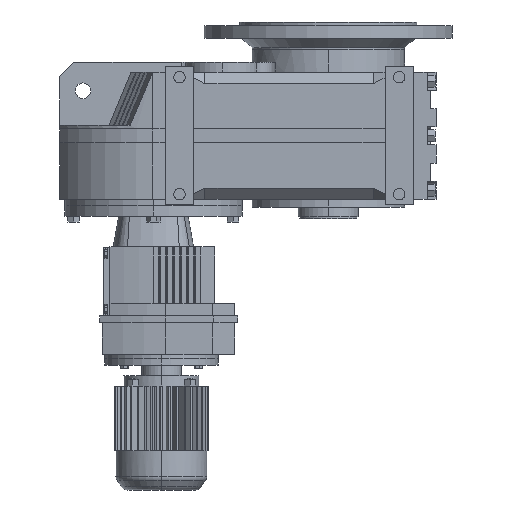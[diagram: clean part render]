
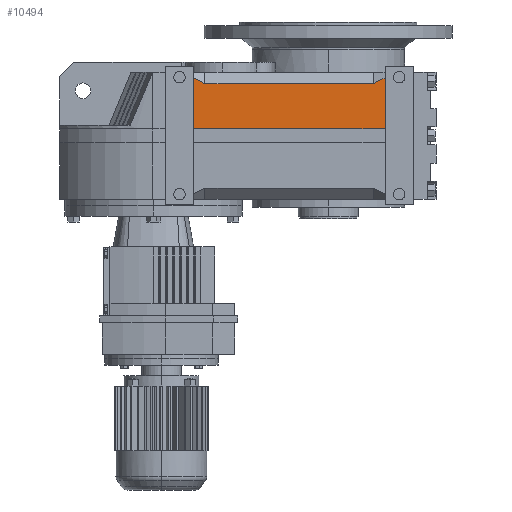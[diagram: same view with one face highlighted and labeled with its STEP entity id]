
A CAD part, left-side view. The second image highlights one B-rep face of the part: STEP entity #10494.
In plain terms, the highlighted planar face has unit normal (-1, 0, 0).
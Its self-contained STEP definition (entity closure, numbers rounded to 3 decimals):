
#844 = PLANE('',#845);
#845 = AXIS2_PLACEMENT_3D('',#846,#847,#848);
#846 = CARTESIAN_POINT('',(-131.2,-326.7,1.));
#847 = DIRECTION('',(0.,1.,0.));
#848 = DIRECTION('',(0.,0.,1.));
#956 = PLANE('',#957);
#957 = AXIS2_PLACEMENT_3D('',#958,#959,#960);
#958 = CARTESIAN_POINT('',(-131.2,-56.7,1.));
#959 = DIRECTION('',(0.,-1.,0.));
#960 = DIRECTION('',(0.,0.,-1.));
#2777 = VERTEX_POINT('',#2778);
#2778 = CARTESIAN_POINT('',(-157.2,-326.7,180.436));
#2792 = PLANE('',#2793);
#2793 = AXIS2_PLACEMENT_3D('',#2794,#2795,#2796);
#2794 = CARTESIAN_POINT('',(-233.918,-326.7,103.718));
#2795 = DIRECTION('',(-0.664,0.342,0.664));
#2796 = DIRECTION('',(0.707,0.,0.707)
  );
#2804 = EDGE_CURVE('',#2805,#2777,#2807,.T.);
#2805 = VERTEX_POINT('',#2806);
#2806 = CARTESIAN_POINT('',(-157.2,-326.7,108.25));
#2807 = SURFACE_CURVE('',#2808,(#2812,#2819),.PCURVE_S1.);
#2808 = LINE('',#2809,#2810);
#2809 = CARTESIAN_POINT('',(-157.2,-326.7,188.2));
#2810 = VECTOR('',#2811,1.);
#2811 = DIRECTION('',(0.,0.,1.));
#2812 = PCURVE('',#844,#2813);
#2813 = DEFINITIONAL_REPRESENTATION('',(#2814),#2818);
#2814 = LINE('',#2815,#2816);
#2815 = CARTESIAN_POINT('',(187.2,-26.));
#2816 = VECTOR('',#2817,1.);
#2817 = DIRECTION('',(1.,0.));
#2818 = ( GEOMETRIC_REPRESENTATION_CONTEXT(2) 
PARAMETRIC_REPRESENTATION_CONTEXT() REPRESENTATION_CONTEXT('2D SPACE',''
  ) );
#2819 = PCURVE('',#2820,#2825);
#2820 = PLANE('',#2821);
#2821 = AXIS2_PLACEMENT_3D('',#2822,#2823,#2824);
#2822 = CARTESIAN_POINT('',(-157.2,-398.7,188.2));
#2823 = DIRECTION('',(1.,0.,0.));
#2824 = DIRECTION('',(0.,0.,-1.));
#2825 = DEFINITIONAL_REPRESENTATION('',(#2826),#2830);
#2826 = LINE('',#2827,#2828);
#2827 = CARTESIAN_POINT('',(0.,72.));
#2828 = VECTOR('',#2829,1.);
#2829 = DIRECTION('',(-1.,0.));
#2830 = ( GEOMETRIC_REPRESENTATION_CONTEXT(2) 
PARAMETRIC_REPRESENTATION_CONTEXT() REPRESENTATION_CONTEXT('2D SPACE',''
  ) );
#2848 = PLANE('',#2849);
#2849 = AXIS2_PLACEMENT_3D('',#2850,#2851,#2852);
#2850 = CARTESIAN_POINT('',(-11.809,1.,108.25));
#2851 = DIRECTION('',(0.,0.,-1.));
#2852 = DIRECTION('',(-1.,0.,0.));
#6862 = VERTEX_POINT('',#6863);
#6863 = CARTESIAN_POINT('',(-157.2,-56.7,108.25));
#6884 = EDGE_CURVE('',#6885,#6862,#6887,.T.);
#6885 = VERTEX_POINT('',#6886);
#6886 = CARTESIAN_POINT('',(-157.2,-56.7,180.436));
#6887 = SURFACE_CURVE('',#6888,(#6892,#6899),.PCURVE_S1.);
#6888 = LINE('',#6889,#6890);
#6889 = CARTESIAN_POINT('',(-157.2,-56.7,188.2));
#6890 = VECTOR('',#6891,1.);
#6891 = DIRECTION('',(0.,0.,-1.));
#6892 = PCURVE('',#956,#6893);
#6893 = DEFINITIONAL_REPRESENTATION('',(#6894),#6898);
#6894 = LINE('',#6895,#6896);
#6895 = CARTESIAN_POINT('',(-187.2,-26.));
#6896 = VECTOR('',#6897,1.);
#6897 = DIRECTION('',(1.,0.));
#6898 = ( GEOMETRIC_REPRESENTATION_CONTEXT(2) 
PARAMETRIC_REPRESENTATION_CONTEXT() REPRESENTATION_CONTEXT('2D SPACE',''
  ) );
#6899 = PCURVE('',#2820,#6900);
#6900 = DEFINITIONAL_REPRESENTATION('',(#6901),#6905);
#6901 = LINE('',#6902,#6903);
#6902 = CARTESIAN_POINT('',(0.,342.));
#6903 = VECTOR('',#6904,1.);
#6904 = DIRECTION('',(1.,0.));
#6905 = ( GEOMETRIC_REPRESENTATION_CONTEXT(2) 
PARAMETRIC_REPRESENTATION_CONTEXT() REPRESENTATION_CONTEXT('2D SPACE',''
  ) );
#6923 = PLANE('',#6924);
#6924 = AXIS2_PLACEMENT_3D('',#6925,#6926,#6927);
#6925 = CARTESIAN_POINT('',(-233.918,-56.7,103.718));
#6926 = DIRECTION('',(-0.664,-0.342,0.664));
#6927 = DIRECTION('',(0.707,0.,0.707
    ));
#7270 = PLANE('',#7271);
#7271 = AXIS2_PLACEMENT_3D('',#7272,#7273,#7274);
#7272 = CARTESIAN_POINT('',(-141.2,1.,188.2));
#7273 = DIRECTION('',(-0.707,0.,0.707));
#7274 = DIRECTION('',(0.707,0.,0.707));
#10451 = VERTEX_POINT('',#10452);
#10452 = CARTESIAN_POINT('',(-157.2,-310.7,172.2));
#10473 = EDGE_CURVE('',#2777,#10451,#10474,.T.);
#10474 = SURFACE_CURVE('',#10475,(#10479,#10486),.PCURVE_S1.);
#10475 = LINE('',#10476,#10477);
#10476 = CARTESIAN_POINT('',(-157.2,-386.779,211.36));
#10477 = VECTOR('',#10478,1.);
#10478 = DIRECTION('',(0.,0.889,-0.458));
#10479 = PCURVE('',#2792,#10480);
#10480 = DEFINITIONAL_REPRESENTATION('',(#10481),#10485);
#10481 = LINE('',#10482,#10483);
#10482 = CARTESIAN_POINT('',(130.362,-63.934));
#10483 = VECTOR('',#10484,1.);
#10484 = DIRECTION('',(-0.324,0.946));
#10485 = ( GEOMETRIC_REPRESENTATION_CONTEXT(2) 
PARAMETRIC_REPRESENTATION_CONTEXT() REPRESENTATION_CONTEXT('2D SPACE',''
  ) );
#10486 = PCURVE('',#2820,#10487);
#10487 = DEFINITIONAL_REPRESENTATION('',(#10488),#10492);
#10488 = LINE('',#10489,#10490);
#10489 = CARTESIAN_POINT('',(-23.16,11.921));
#10490 = VECTOR('',#10491,1.);
#10491 = DIRECTION('',(0.458,0.889));
#10492 = ( GEOMETRIC_REPRESENTATION_CONTEXT(2) 
PARAMETRIC_REPRESENTATION_CONTEXT() REPRESENTATION_CONTEXT('2D SPACE',''
  ) );
#10494 = ADVANCED_FACE('',(#10495),#2820,.F.);
#10495 = FACE_BOUND('',#10496,.T.);
#10496 = EDGE_LOOP('',(#10497,#10498,#10499,#10522,#10543,#10544));
#10497 = ORIENTED_EDGE('',*,*,#2804,.T.);
#10498 = ORIENTED_EDGE('',*,*,#10473,.T.);
#10499 = ORIENTED_EDGE('',*,*,#10500,.T.);
#10500 = EDGE_CURVE('',#10451,#10501,#10503,.T.);
#10501 = VERTEX_POINT('',#10502);
#10502 = CARTESIAN_POINT('',(-157.2,-72.7,172.2));
#10503 = SURFACE_CURVE('',#10504,(#10508,#10515),.PCURVE_S1.);
#10504 = LINE('',#10505,#10506);
#10505 = CARTESIAN_POINT('',(-157.2,-56.7,172.2));
#10506 = VECTOR('',#10507,1.);
#10507 = DIRECTION('',(0.,1.,0.));
#10508 = PCURVE('',#2820,#10509);
#10509 = DEFINITIONAL_REPRESENTATION('',(#10510),#10514);
#10510 = LINE('',#10511,#10512);
#10511 = CARTESIAN_POINT('',(16.,342.));
#10512 = VECTOR('',#10513,1.);
#10513 = DIRECTION('',(0.,1.));
#10514 = ( GEOMETRIC_REPRESENTATION_CONTEXT(2) 
PARAMETRIC_REPRESENTATION_CONTEXT() REPRESENTATION_CONTEXT('2D SPACE',''
  ) );
#10515 = PCURVE('',#7270,#10516);
#10516 = DEFINITIONAL_REPRESENTATION('',(#10517),#10521);
#10517 = LINE('',#10518,#10519);
#10518 = CARTESIAN_POINT('',(-22.627,-57.7));
#10519 = VECTOR('',#10520,1.);
#10520 = DIRECTION('',(0.,1.));
#10521 = ( GEOMETRIC_REPRESENTATION_CONTEXT(2) 
PARAMETRIC_REPRESENTATION_CONTEXT() REPRESENTATION_CONTEXT('2D SPACE',''
  ) );
#10522 = ORIENTED_EDGE('',*,*,#10523,.T.);
#10523 = EDGE_CURVE('',#10501,#6885,#10524,.T.);
#10524 = SURFACE_CURVE('',#10525,(#10529,#10536),.PCURVE_S1.);
#10525 = LINE('',#10526,#10527);
#10526 = CARTESIAN_POINT('',(-157.2,-323.907,42.896));
#10527 = VECTOR('',#10528,1.);
#10528 = DIRECTION('',(0.,0.889,0.458));
#10529 = PCURVE('',#2820,#10530);
#10530 = DEFINITIONAL_REPRESENTATION('',(#10531),#10535);
#10531 = LINE('',#10532,#10533);
#10532 = CARTESIAN_POINT('',(145.304,74.793));
#10533 = VECTOR('',#10534,1.);
#10534 = DIRECTION('',(-0.458,0.889));
#10535 = ( GEOMETRIC_REPRESENTATION_CONTEXT(2) 
PARAMETRIC_REPRESENTATION_CONTEXT() REPRESENTATION_CONTEXT('2D SPACE',''
  ) );
#10536 = PCURVE('',#6923,#10537);
#10537 = DEFINITIONAL_REPRESENTATION('',(#10538),#10542);
#10538 = LINE('',#10539,#10540);
#10539 = CARTESIAN_POINT('',(11.24,-284.356));
#10540 = VECTOR('',#10541,1.);
#10541 = DIRECTION('',(0.324,0.946));
#10542 = ( GEOMETRIC_REPRESENTATION_CONTEXT(2) 
PARAMETRIC_REPRESENTATION_CONTEXT() REPRESENTATION_CONTEXT('2D SPACE',''
  ) );
#10543 = ORIENTED_EDGE('',*,*,#6884,.T.);
#10544 = ORIENTED_EDGE('',*,*,#10545,.F.);
#10545 = EDGE_CURVE('',#2805,#6862,#10546,.T.);
#10546 = SURFACE_CURVE('',#10547,(#10551,#10558),.PCURVE_S1.);
#10547 = LINE('',#10548,#10549);
#10548 = CARTESIAN_POINT('',(-157.2,-398.7,108.25));
#10549 = VECTOR('',#10550,1.);
#10550 = DIRECTION('',(0.,1.,0.));
#10551 = PCURVE('',#2820,#10552);
#10552 = DEFINITIONAL_REPRESENTATION('',(#10553),#10557);
#10553 = LINE('',#10554,#10555);
#10554 = CARTESIAN_POINT('',(79.95,0.));
#10555 = VECTOR('',#10556,1.);
#10556 = DIRECTION('',(0.,1.));
#10557 = ( GEOMETRIC_REPRESENTATION_CONTEXT(2) 
PARAMETRIC_REPRESENTATION_CONTEXT() REPRESENTATION_CONTEXT('2D SPACE',''
  ) );
#10558 = PCURVE('',#2848,#10559);
#10559 = DEFINITIONAL_REPRESENTATION('',(#10560),#10564);
#10560 = LINE('',#10561,#10562);
#10561 = CARTESIAN_POINT('',(145.391,-399.7));
#10562 = VECTOR('',#10563,1.);
#10563 = DIRECTION('',(0.,1.));
#10564 = ( GEOMETRIC_REPRESENTATION_CONTEXT(2) 
PARAMETRIC_REPRESENTATION_CONTEXT() REPRESENTATION_CONTEXT('2D SPACE',''
  ) );
